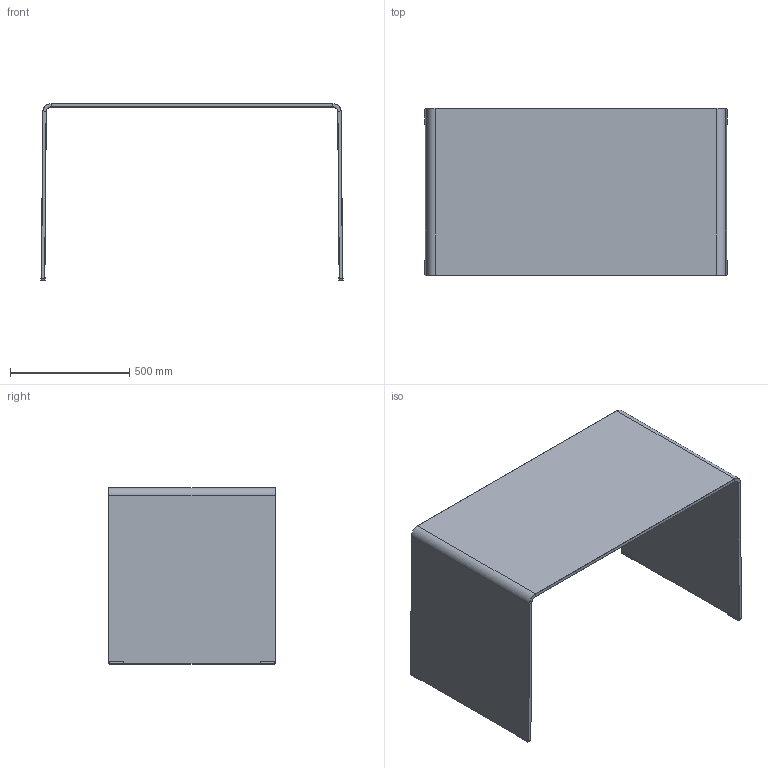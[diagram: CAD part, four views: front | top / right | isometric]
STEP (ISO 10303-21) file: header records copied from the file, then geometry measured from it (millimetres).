
FILE_DESCRIPTION((''),'2;1');
FILE_NAME('C:\AutodeskVault\AreaLavoro\Progetti\SoVeT Italia\1. Tavoli_Dining tables\Order\Web file\Order Web\P1210.stp','2012-05-09T10:13:10',('Gianluca'),('So.Ve.T. s.r.l.'),'Autodesk Inventor 2011','Autodesk Inventor 2011','IL PROGETTO E'' DI ESCLUSIVA PROPRIETA'' DELLA SO.VE.T. srl. E'' VIETATA OGNI RIPRODUZIONE TOTALE O PARZIALE E QUALSIASI UTILIZZO NON AUTORIZZATO.');
FILE_SCHEMA(('AUTOMOTIVE_DESIGN { 1 0 10303 214 1 1 1 1 }'));
Length unit declared in the file: millimetre
Products named in the file (1): P1210 Contorno semplificato
Bounding box: 1267.11 x 700 x 741.31 mm (x, y, z)
Volume: 28114372.1 mm3; surface area: 3855105.7 mm2
Topology: 1 solids, 1 shells, 134 faces, 344 edges, 208 vertices
Faces by surface type: plane 78, cylinder 40, cone 16
Entity records: 4189 total; most frequent: DIRECTION 710, ORIENTED_EDGE 688, CARTESIAN_POINT 687, EDGE_CURVE 344, VECTOR 248, LINE 248, AXIS2_PLACEMENT_3D 231, VERTEX_POINT 208
